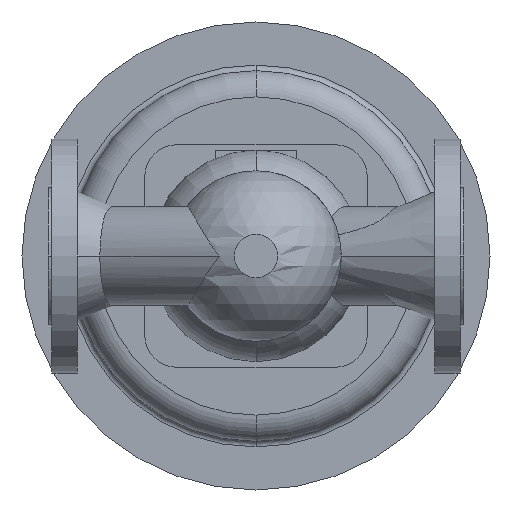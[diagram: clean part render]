
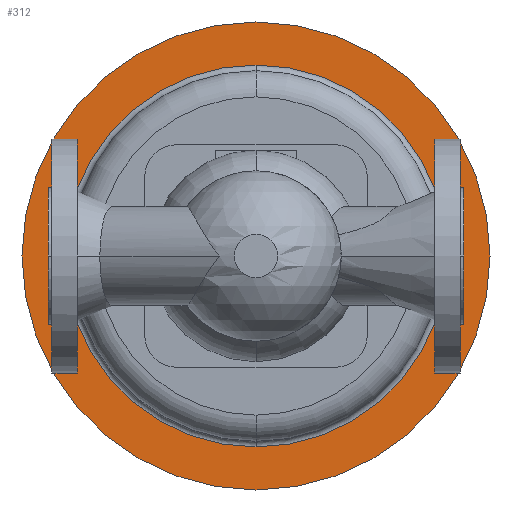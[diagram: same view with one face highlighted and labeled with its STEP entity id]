
A CAD part, front view. The second image highlights one B-rep face of the part: STEP entity #312.
In plain terms, the highlighted planar face has unit normal (0, -1, 0).
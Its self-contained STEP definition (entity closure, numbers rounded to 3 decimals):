
#312 = ADVANCED_FACE( '', ( #739, #740 ), #741, .T. );
#739 = FACE_OUTER_BOUND( '', #1175, .T. );
#740 = FACE_BOUND( '', #1176, .T. );
#741 = PLANE( '', #1177 );
#1175 = EDGE_LOOP( '', ( #2723, #2724 ) );
#1176 = EDGE_LOOP( '', ( #2725, #2726, #2727 ) );
#1177 = AXIS2_PLACEMENT_3D( '', #2728, #2729, #2730 );
#2723 = ORIENTED_EDGE( '', *, *, #3102, .F. );
#2724 = ORIENTED_EDGE( '', *, *, #3273, .F. );
#2725 = ORIENTED_EDGE( '', *, *, #3271, .T. );
#2726 = ORIENTED_EDGE( '', *, *, #3109, .T. );
#2727 = ORIENTED_EDGE( '', *, *, #3272, .T. );
#2728 = CARTESIAN_POINT( '', ( 224.5, 436.5, 0. ) );
#2729 = DIRECTION( '', ( 0., -1., 0. ) );
#2730 = DIRECTION( '', ( -1., 0., 0. ) );
#3102 = EDGE_CURVE( '', #3819, #3822, #3823, .T. );
#3109 = EDGE_CURVE( '', #3828, #3834, #3836, .T. );
#3271 = EDGE_CURVE( '', #4105, #3828, #4106, .T. );
#3272 = EDGE_CURVE( '', #3834, #4105, #4107, .T. );
#3273 = EDGE_CURVE( '', #3822, #3819, #4108, .T. );
#3819 = VERTEX_POINT( '', #5574 );
#3822 = VERTEX_POINT( '', #5578 );
#3823 = CIRCLE( '', #5579, 125. );
#3828 = VERTEX_POINT( '', #5585 );
#3834 = VERTEX_POINT( '', #5591 );
#3836 = CIRCLE( '', #5593, 102. );
#4105 = VERTEX_POINT( '', #5931 );
#4106 = CIRCLE( '', #5932, 102. );
#4107 = CIRCLE( '', #5933, 102. );
#4108 = CIRCLE( '', #5934, 125. );
#5574 = CARTESIAN_POINT( '', ( 236., 436.5, 0. ) );
#5578 = CARTESIAN_POINT( '', ( -14., 436.5, 0. ) );
#5579 = AXIS2_PLACEMENT_3D( '', #6548, #6549, #6550 );
#5585 = CARTESIAN_POINT( '', ( 111., 436.5, -102. ) );
#5591 = CARTESIAN_POINT( '', ( 111., 436.5, 102. ) );
#5593 = AXIS2_PLACEMENT_3D( '', #6567, #6568, #6569 );
#5931 = CARTESIAN_POINT( '', ( 213., 436.5, 0. ) );
#5932 = AXIS2_PLACEMENT_3D( '', #6915, #6916, #6917 );
#5933 = AXIS2_PLACEMENT_3D( '', #6918, #6919, #6920 );
#5934 = AXIS2_PLACEMENT_3D( '', #6921, #6922, #6923 );
#6548 = CARTESIAN_POINT( '', ( 111., 436.5, 0. ) );
#6549 = DIRECTION( '', ( 0., 1., 0. ) );
#6550 = DIRECTION( '', ( 1., 0., 0. ) );
#6567 = CARTESIAN_POINT( '', ( 111., 436.5, 0. ) );
#6568 = DIRECTION( '', ( 0., 1., 0. ) );
#6569 = DIRECTION( '', ( 1., 0., 0. ) );
#6915 = CARTESIAN_POINT( '', ( 111., 436.5, 0. ) );
#6916 = DIRECTION( '', ( 0., 1., 0. ) );
#6917 = DIRECTION( '', ( 1., 0., 0. ) );
#6918 = CARTESIAN_POINT( '', ( 111., 436.5, 0. ) );
#6919 = DIRECTION( '', ( 0., 1., 0. ) );
#6920 = DIRECTION( '', ( 1., 0., 0. ) );
#6921 = CARTESIAN_POINT( '', ( 111., 436.5, 0. ) );
#6922 = DIRECTION( '', ( 0., 1., 0. ) );
#6923 = DIRECTION( '', ( 1., 0., 0. ) );
